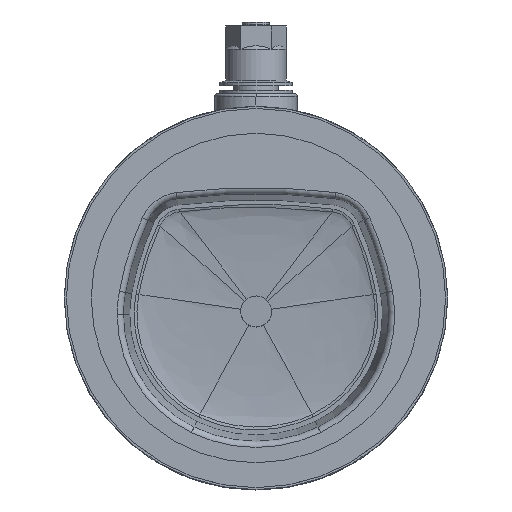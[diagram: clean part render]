
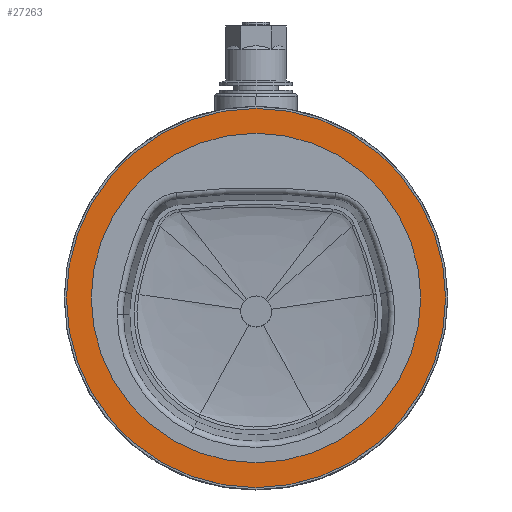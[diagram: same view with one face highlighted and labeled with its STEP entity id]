
A CAD part, top view. The second image highlights one B-rep face of the part: STEP entity #27263.
In plain terms, the highlighted planar face has unit normal (0, 0, 1).
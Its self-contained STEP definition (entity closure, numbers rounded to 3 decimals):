
#3388 = VERTEX_POINT ( 'NONE', #77588 ) ;
#5256 = DIRECTION ( 'NONE',  ( -1., 0., 0. ) ) ;
#5296 = VERTEX_POINT ( 'NONE', #58659 ) ;
#10703 = AXIS2_PLACEMENT_3D ( 'NONE', #63701, #22777, #80258 ) ;
#13600 = EDGE_LOOP ( 'NONE', ( #49420, #91262 ) ) ;
#15540 = CARTESIAN_POINT ( 'NONE',  ( -3.399, -30.039, 73. ) ) ;
#15593 = DIRECTION ( 'NONE',  ( 0., 0., -1. ) ) ;
#22777 = DIRECTION ( 'NONE',  ( 0., 0., -1. ) ) ;
#23789 = DIRECTION ( 'NONE',  ( -1., 0., 0. ) ) ;
#25815 = ORIENTED_EDGE ( 'NONE', *, *, #77333, .F. ) ;
#27187 = FACE_BOUND ( 'NONE', #13600, .T. ) ;
#27263 = ADVANCED_FACE ( 'NONE', ( #92789, #27187 ), #104708, .F. ) ;
#42744 = AXIS2_PLACEMENT_3D ( 'NONE', #103606, #54311, #5256 ) ;
#46306 = CARTESIAN_POINT ( 'NONE',  ( -3.399, -30.039, 73. ) ) ;
#47676 = CARTESIAN_POINT ( 'NONE',  ( 148.951, -30.039, 73. ) ) ;
#48305 = EDGE_CURVE ( 'NONE', #90188, #5296, #66618, .T. ) ;
#49420 = ORIENTED_EDGE ( 'NONE', *, *, #104239, .T. ) ;
#53396 = CIRCLE ( 'NONE', #92992, 152.35 ) ;
#53905 = AXIS2_PLACEMENT_3D ( 'NONE', #46306, #103846, #54577 ) ;
#54311 = DIRECTION ( 'NONE',  ( 0., 0., -1. ) ) ;
#54577 = DIRECTION ( 'NONE',  ( -1., 0., 0. ) ) ;
#56670 = EDGE_CURVE ( 'NONE', #85895, #3388, #73688, .T. ) ;
#58659 = CARTESIAN_POINT ( 'NONE',  ( -135.749, -30.039, 73. ) ) ;
#61531 = ORIENTED_EDGE ( 'NONE', *, *, #56670, .F. ) ;
#63701 = CARTESIAN_POINT ( 'NONE',  ( -3.399, 122.311, 73. ) ) ;
#64767 = CARTESIAN_POINT ( 'NONE',  ( -3.399, -30.039, 73. ) ) ;
#66618 = CIRCLE ( 'NONE', #53905, 132.35 ) ;
#73014 = DIRECTION ( 'NONE',  ( 0., 0., -1. ) ) ;
#73064 = DIRECTION ( 'NONE',  ( -1., 0., 0. ) ) ;
#73688 = CIRCLE ( 'NONE', #42744, 152.35 ) ;
#77333 = EDGE_CURVE ( 'NONE', #3388, #85895, #53396, .T. ) ;
#77335 = CIRCLE ( 'NONE', #89137, 132.35 ) ;
#77588 = CARTESIAN_POINT ( 'NONE',  ( -155.749, -30.039, 73. ) ) ;
#80258 = DIRECTION ( 'NONE',  ( -1., 0., 0. ) ) ;
#80713 = EDGE_LOOP ( 'NONE', ( #25815, #61531 ) ) ;
#85895 = VERTEX_POINT ( 'NONE', #47676 ) ;
#89137 = AXIS2_PLACEMENT_3D ( 'NONE', #15540, #73014, #23789 ) ;
#90188 = VERTEX_POINT ( 'NONE', #99290 ) ;
#91262 = ORIENTED_EDGE ( 'NONE', *, *, #48305, .T. ) ;
#92789 = FACE_OUTER_BOUND ( 'NONE', #80713, .T. ) ;
#92992 = AXIS2_PLACEMENT_3D ( 'NONE', #64767, #15593, #73064 ) ;
#99290 = CARTESIAN_POINT ( 'NONE',  ( 128.951, -30.039, 73. ) ) ;
#103606 = CARTESIAN_POINT ( 'NONE',  ( -3.399, -30.039, 73. ) ) ;
#103846 = DIRECTION ( 'NONE',  ( 0., 0., -1. ) ) ;
#104239 = EDGE_CURVE ( 'NONE', #5296, #90188, #77335, .T. ) ;
#104708 = PLANE ( 'NONE',  #10703 ) ;
